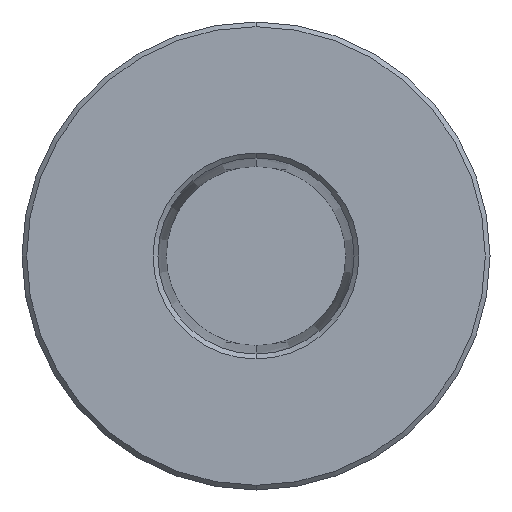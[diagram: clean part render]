
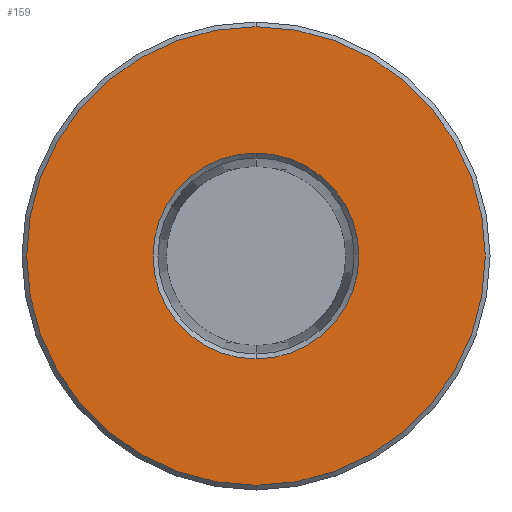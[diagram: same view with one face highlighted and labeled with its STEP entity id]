
A CAD part, front view. The second image highlights one B-rep face of the part: STEP entity #159.
In plain terms, the highlighted planar face has unit normal (0, -1, 0).
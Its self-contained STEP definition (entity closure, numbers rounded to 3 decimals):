
#15 = AXIS2_PLACEMENT_3D ( 'NONE', #674, #614, #544 ) ;
#19 = EDGE_LOOP ( 'NONE', ( #593, #509 ) ) ;
#46 = EDGE_CURVE ( 'NONE', #254, #200, #109, .T. ) ;
#94 = CARTESIAN_POINT ( 'NONE',  ( 0., 0., 0. ) ) ;
#105 = CARTESIAN_POINT ( 'NONE',  ( 0., 0., 0. ) ) ;
#109 = CIRCLE ( 'NONE', #297, 14.7 ) ;
#124 = CIRCLE ( 'NONE', #15, 6.6 ) ;
#127 = CARTESIAN_POINT ( 'NONE',  ( 0., 0., -6.6 ) ) ;
#159 = ADVANCED_FACE ( 'NONE', ( #348, #170 ), #376, .F. ) ;
#162 = EDGE_CURVE ( 'NONE', #494, #458, #124, .T. ) ;
#163 = CARTESIAN_POINT ( 'NONE',  ( 0., 0., 14.7 ) ) ;
#170 = FACE_OUTER_BOUND ( 'NONE', #19, .T. ) ;
#179 = ORIENTED_EDGE ( 'NONE', *, *, #162, .T. ) ;
#200 = VERTEX_POINT ( 'NONE', #327 ) ;
#211 = EDGE_CURVE ( 'NONE', #200, #254, #477, .T. ) ;
#214 = DIRECTION ( 'NONE',  ( 0., -1., 0. ) ) ;
#233 = CARTESIAN_POINT ( 'NONE',  ( 0., 0., 0. ) ) ;
#241 = CARTESIAN_POINT ( 'NONE',  ( 0., 0., 6.6 ) ) ;
#254 = VERTEX_POINT ( 'NONE', #163 ) ;
#267 = AXIS2_PLACEMENT_3D ( 'NONE', #94, #504, #372 ) ;
#297 = AXIS2_PLACEMENT_3D ( 'NONE', #527, #526, #531 ) ;
#327 = CARTESIAN_POINT ( 'NONE',  ( 0., 0., -14.7 ) ) ;
#339 = DIRECTION ( 'NONE',  ( 0., 1., 0. ) ) ;
#348 = FACE_BOUND ( 'NONE', #618, .T. ) ;
#372 = DIRECTION ( 'NONE',  ( 0., 0., 1. ) ) ;
#376 = PLANE ( 'NONE',  #267 ) ;
#377 = DIRECTION ( 'NONE',  ( 0., 0., 1. ) ) ;
#378 = EDGE_CURVE ( 'NONE', #458, #494, #520, .T. ) ;
#394 = ORIENTED_EDGE ( 'NONE', *, *, #378, .T. ) ;
#458 = VERTEX_POINT ( 'NONE', #127 ) ;
#477 = CIRCLE ( 'NONE', #661, 14.7 ) ;
#494 = VERTEX_POINT ( 'NONE', #241 ) ;
#504 = DIRECTION ( 'NONE',  ( 0., 1., 0. ) ) ;
#509 = ORIENTED_EDGE ( 'NONE', *, *, #211, .T. ) ;
#520 = CIRCLE ( 'NONE', #684, 6.6 ) ;
#526 = DIRECTION ( 'NONE',  ( 0., -1., 0. ) ) ;
#527 = CARTESIAN_POINT ( 'NONE',  ( 0., 0., 0. ) ) ;
#531 = DIRECTION ( 'NONE',  ( 0., 0., 1. ) ) ;
#544 = DIRECTION ( 'NONE',  ( 0., 0., 1. ) ) ;
#593 = ORIENTED_EDGE ( 'NONE', *, *, #46, .T. ) ;
#614 = DIRECTION ( 'NONE',  ( 0., 1., 0. ) ) ;
#618 = EDGE_LOOP ( 'NONE', ( #394, #179 ) ) ;
#626 = DIRECTION ( 'NONE',  ( 0., 0., 1. ) ) ;
#661 = AXIS2_PLACEMENT_3D ( 'NONE', #105, #214, #377 ) ;
#674 = CARTESIAN_POINT ( 'NONE',  ( 0., 0., 0. ) ) ;
#684 = AXIS2_PLACEMENT_3D ( 'NONE', #233, #339, #626 ) ;
